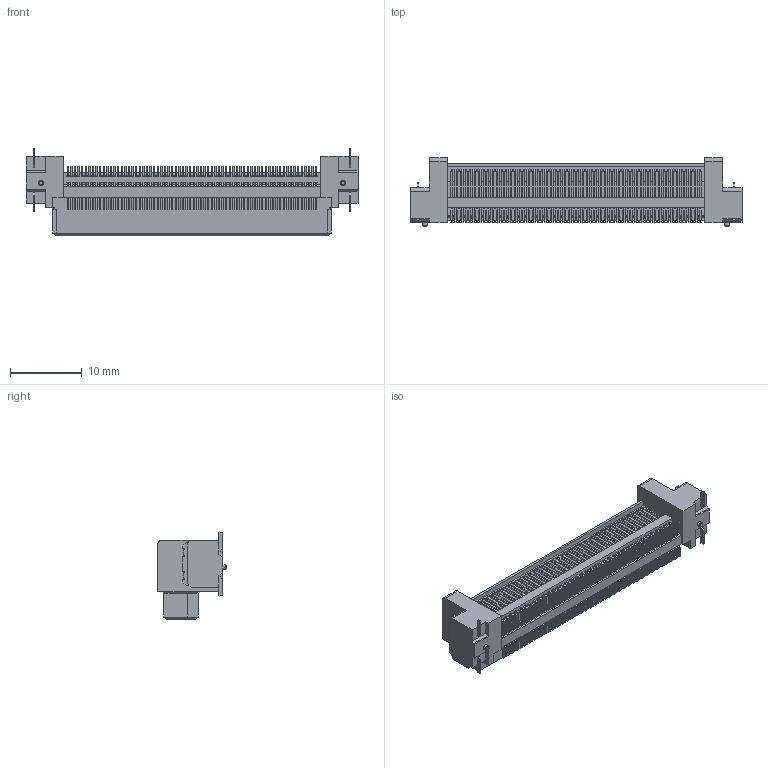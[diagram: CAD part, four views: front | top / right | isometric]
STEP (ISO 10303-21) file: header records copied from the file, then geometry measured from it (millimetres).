
FILE_DESCRIPTION(('Creo Elements/Direct Modeling STEP Export'),'2;1');
FILE_NAME('DT11-140L.stp','2018-11-12T16:53:23',(''),(''),'Creo Elements/Direct Modeling STEP processor for AP214 (Solid Model)','Creo Elements/Direct Modeling 19.0F 14-Feb-2017 (C) Parametric Technology GmbH','');
FILE_SCHEMA(('AUTOMOTIVE_DESIGN { 1 0 10303 214 1 1 1 1 }'));
Products named in the file (2): DT11-140L_model
Assembly tree (1 placements, depth 2):
  DT11-140L_model
    DT11-140L_model
Bounding box: 46.12 x 9.5 x 12.2 mm (x, y, z)
Volume: 1896.2 mm3; surface area: 2925.9 mm2
Topology: 1 solids, 1 shells, 6910 faces, 19416 edges, 12652 vertices
Faces by surface type: plane 5770, cylinder 1136, cone 4
Entity records: 213416 total; most frequent: ORIENTED_EDGE 38832, CARTESIAN_POINT 37385, DIRECTION 33204, EDGE_CURVE 19416, VECTOR 16262, LINE 16262, VERTEX_POINT 12652, AXIS2_PLACEMENT_3D 8471
